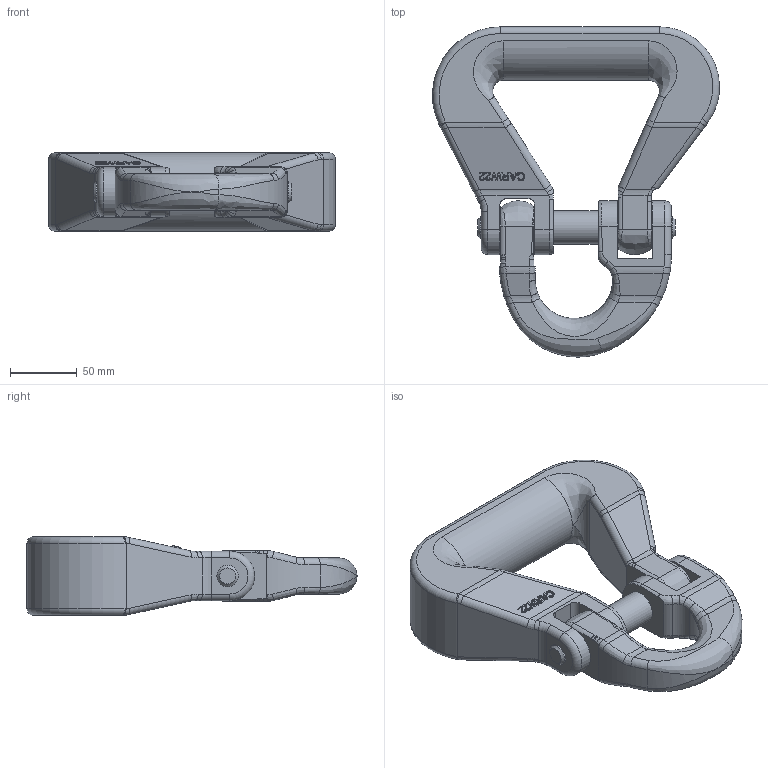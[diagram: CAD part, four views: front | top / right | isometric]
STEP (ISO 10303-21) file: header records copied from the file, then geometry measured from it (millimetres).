
FILE_DESCRIPTION(/* description */ (''),/* implementation_level */ '2;1');
FILE_NAME(/* name */ 'CARW 22 Kundenmodell',/* time_stamp */ '2010-01-11T14:24:24+01:00',/* author */ (''),/* organization */ (''),/* preprocessor_version */ 'ST-DEVELOPER v9',/* originating_system */ 'UGS - NX 4.0',/* authorisation */ '');
FILE_SCHEMA (('AUTOMOTIVE_DESIGN { 1 0 10303 214 1 1 1 1 }'));
Length unit declared in the file: millimetre
Products named in the file (1): ritE0872l04
Bounding box: 214.9 x 247.25 x 59 mm (x, y, z)
Volume: 1145543.3 mm3; surface area: 132475.8 mm2
Topology: 4 solids, 4 shells, 348 faces, 888 edges, 552 vertices
Faces by surface type: plane 97, bspline 94, cylinder 81, extrusion 51, torus 23, cone 2
Full cylindrical faces by diameter (mm): 14 x3, 16 x5, 25 x1
Entity records: 13589 total; most frequent: CARTESIAN_POINT 6319, ORIENTED_EDGE 1732, DIRECTION 1137, EDGE_CURVE 866, VERTEX_POINT 545, AXIS2_PLACEMENT_3D 400, EDGE_LOOP 381, ADVANCED_FACE 348
